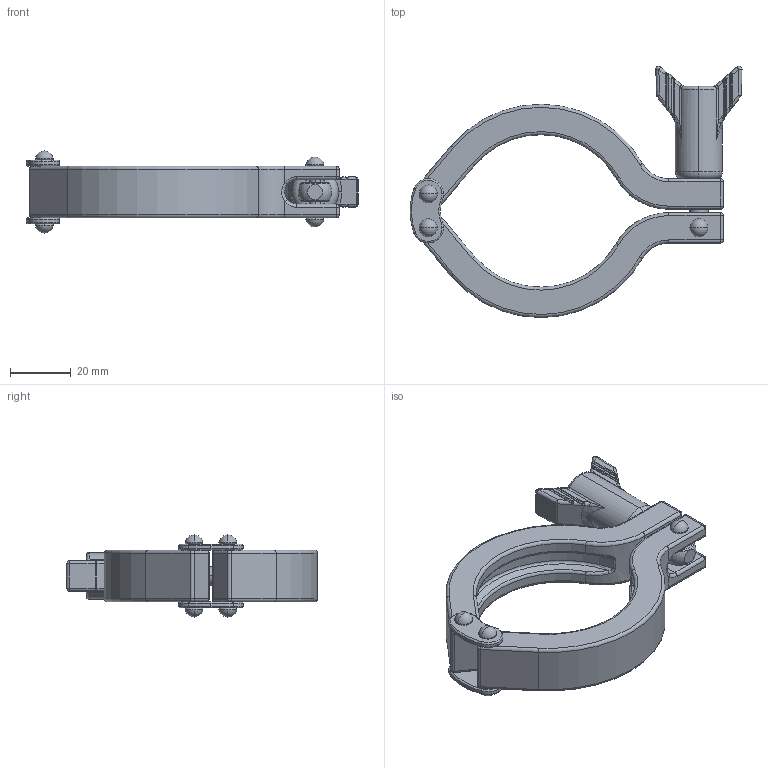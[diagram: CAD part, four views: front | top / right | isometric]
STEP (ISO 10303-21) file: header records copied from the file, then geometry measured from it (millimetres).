
FILE_DESCRIPTION (( 'STEP AP203' ), '1' );
FILE_NAME ('13MHHD2.5.STEP', '2020-02-13T02:49:27', ( '' ), ( '' ), 'SwSTEP 2.0', 'SolidWorks 2014', '' );
FILE_SCHEMA (( 'CONFIG_CONTROL_DESIGN' ));
Length unit declared in the file: millimetre
Products named in the file (10): 13MHHD-PARTS-2; Wing Nut 11; 13MHHD2.5; 13MHHD-PARTS-3; 13MHHM-PART-4; 13MHHD-PARTS; 13MHHD-2; 13MHHD-PARTS-1; 13MHHD2.0-1; 13MHHD2.0-2
Assembly tree (12 placements, depth 2):
  13MHHD2.5
    13MHHD2.0-1
    13MHHD-PARTS  x2
    13MHHD-PARTS-1  x2
    13MHHD-PARTS-2
    13MHHD-PARTS-3
    13MHHM-PART-4
    13MHHD-2  x2
    13MHHD2.0-2
    Wing Nut 11
Bounding box: 109.17 x 82.59 x 27 mm (x, y, z)
Volume: 43057 mm3; surface area: 21043.3 mm2
Topology: 12 solids, 12 shells, 471 faces, 1098 edges, 622 vertices
Faces by surface type: cylinder 177, torus 93, bspline 76, plane 73, sphere 48, cone 4
Entity records: 16559 total; most frequent: CARTESIAN_POINT 6203, DIRECTION 2029, ORIENTED_EDGE 1908, EDGE_CURVE 954, AXIS2_PLACEMENT_3D 876, VERTEX_POINT 550, CIRCLE 509, EDGE_LOOP 450
